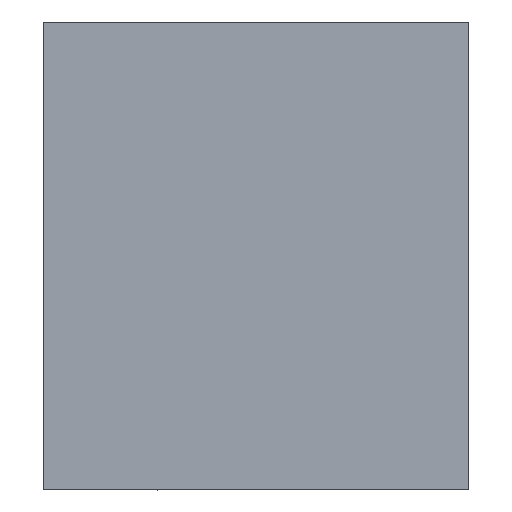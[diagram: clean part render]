
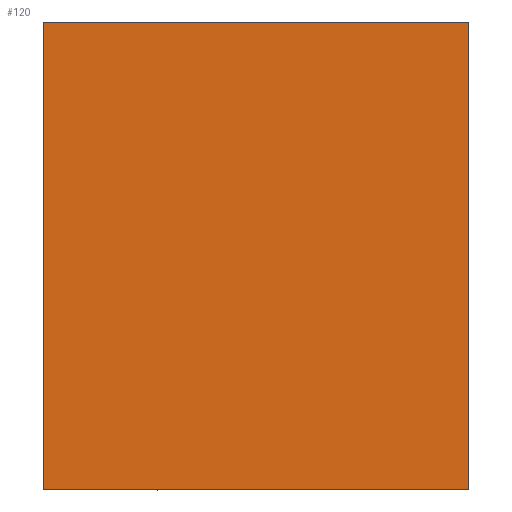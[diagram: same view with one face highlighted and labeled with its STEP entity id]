
A CAD part, front view. The second image highlights one B-rep face of the part: STEP entity #120.
In plain terms, the highlighted planar face has unit normal (0, -1, 0).
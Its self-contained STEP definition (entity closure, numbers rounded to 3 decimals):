
#112=FACE_OUTER_BOUND('',#202,.T.);
#120=ADVANCED_FACE('',(#112),#134,.T.);
#134=PLANE('',#349);
#149=LINE('',#467,#168);
#150=LINE('',#469,#169);
#151=LINE('',#471,#170);
#152=LINE('',#473,#171);
#168=VECTOR('',#392,1.);
#169=VECTOR('',#395,1.);
#170=VECTOR('',#396,1.);
#171=VECTOR('',#397,1.);
#202=EDGE_LOOP('',(#239,#240,#241,#242));
#239=ORIENTED_EDGE('',*,*,#316,.F.);
#240=ORIENTED_EDGE('',*,*,#315,.F.);
#241=ORIENTED_EDGE('',*,*,#317,.T.);
#242=ORIENTED_EDGE('',*,*,#318,.T.);
#289=VERTEX_POINT('',#464);
#290=VERTEX_POINT('',#466);
#291=VERTEX_POINT('',#470);
#292=VERTEX_POINT('',#472);
#315=EDGE_CURVE('',#290,#289,#149,.T.);
#316=EDGE_CURVE('',#289,#291,#150,.T.);
#317=EDGE_CURVE('',#290,#292,#151,.T.);
#318=EDGE_CURVE('',#292,#291,#152,.T.);
#349=AXIS2_PLACEMENT_3D('',#474,#398,#399);
#392=DIRECTION('',(-1.,0.,0.));
#395=DIRECTION('',(0.,0.,1.));
#396=DIRECTION('',(0.,0.,1.));
#397=DIRECTION('',(-1.,0.,0.));
#398=DIRECTION('',(0.,-1.,0.));
#399=DIRECTION('',(0.,0.,-1.));
#464=CARTESIAN_POINT('',(-10.,0.,0.));
#466=CARTESIAN_POINT('',(10.,0.,0.));
#467=CARTESIAN_POINT('',(10.,0.,0.));
#469=CARTESIAN_POINT('',(-10.,0.,0.));
#470=CARTESIAN_POINT('',(-10.,0.,22.));
#471=CARTESIAN_POINT('',(10.,0.,0.));
#472=CARTESIAN_POINT('',(10.,0.,22.));
#473=CARTESIAN_POINT('',(10.,0.,22.));
#474=CARTESIAN_POINT('',(10.,0.,0.));
